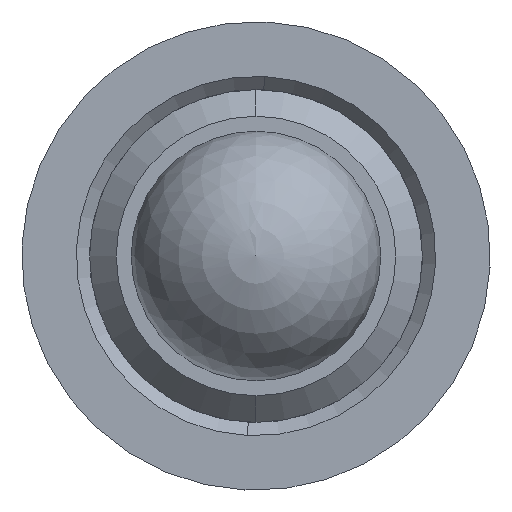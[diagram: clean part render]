
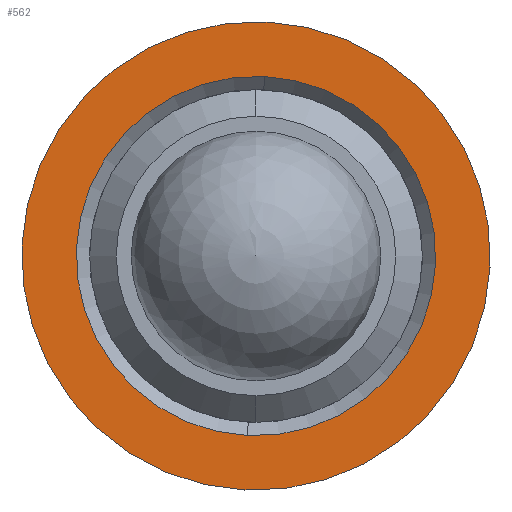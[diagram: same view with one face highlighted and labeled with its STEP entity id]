
A CAD part, left-side view. The second image highlights one B-rep face of the part: STEP entity #562.
In plain terms, the highlighted planar face has unit normal (-1, 0, 0).
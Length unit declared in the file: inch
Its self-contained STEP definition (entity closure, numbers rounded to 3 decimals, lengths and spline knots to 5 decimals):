
#37 = DIRECTION ( 'NONE',  ( 0., -0.047, 0.999 ) ) ;
#45 = VERTEX_POINT ( 'NONE', #416 ) ;
#96 = AXIS2_PLACEMENT_3D ( 'NONE', #1308, #1296, #1261 ) ;
#120 = CARTESIAN_POINT ( 'NONE',  ( 0.08877, 0.45791, 0.37137 ) ) ;
#122 = AXIS2_PLACEMENT_3D ( 'NONE', #168, #160, #37 ) ;
#160 = DIRECTION ( 'NONE',  ( -1., 0., 0. ) ) ;
#168 = CARTESIAN_POINT ( 'NONE',  ( 0.08877, 0.44964, 0.54718 ) ) ;
#180 = VERTEX_POINT ( 'NONE', #395 ) ;
#237 = CIRCLE ( 'NONE', #122, 0.176 ) ;
#395 = CARTESIAN_POINT ( 'NONE',  ( 0.08877, 0.45599, 0.41233 ) ) ;
#416 = CARTESIAN_POINT ( 'NONE',  ( 0.08877, 0.44137, 0.72298 ) ) ;
#438 = FACE_OUTER_BOUND ( 'NONE', #1280, .T. ) ;
#448 = CIRCLE ( 'NONE', #1163, 0.176 ) ;
#562 = ADVANCED_FACE ( 'NONE', ( #1380, #438 ), #916, .F. ) ;
#595 = ORIENTED_EDGE ( 'NONE', *, *, #832, .T. ) ;
#631 = CARTESIAN_POINT ( 'NONE',  ( 0.08877, 0.44964, 0.54718 ) ) ;
#642 = CIRCLE ( 'NONE', #962, 0.135 ) ;
#670 = VERTEX_POINT ( 'NONE', #120 ) ;
#715 = ORIENTED_EDGE ( 'NONE', *, *, #1244, .T. ) ;
#735 = AXIS2_PLACEMENT_3D ( 'NONE', #1363, #1357, #1341 ) ;
#741 = ORIENTED_EDGE ( 'NONE', *, *, #1149, .T. ) ;
#763 = DIRECTION ( 'NONE',  ( 1., 0., 0. ) ) ;
#769 = CARTESIAN_POINT ( 'NONE',  ( 0.08877, 0.44964, 0.54718 ) ) ;
#779 = EDGE_CURVE ( 'NONE', #1382, #180, #642, .T. ) ;
#787 = DIRECTION ( 'NONE',  ( 0., 0.047, -0.999 ) ) ;
#794 = DIRECTION ( 'NONE',  ( -1., 0., 0. ) ) ;
#832 = EDGE_CURVE ( 'NONE', #180, #1382, #1425, .T. ) ;
#916 = PLANE ( 'NONE',  #96 ) ;
#962 = AXIS2_PLACEMENT_3D ( 'NONE', #769, #763, #787 ) ;
#1149 = EDGE_CURVE ( 'NONE', #670, #45, #237, .T. ) ;
#1163 = AXIS2_PLACEMENT_3D ( 'NONE', #631, #794, #1246 ) ;
#1218 = CARTESIAN_POINT ( 'NONE',  ( 0.08877, 0.44329, 0.68203 ) ) ;
#1244 = EDGE_CURVE ( 'NONE', #45, #670, #448, .T. ) ;
#1246 = DIRECTION ( 'NONE',  ( 0., -0.047, 0.999 ) ) ;
#1261 = DIRECTION ( 'NONE',  ( 0., 0.047, -0.999 ) ) ;
#1280 = EDGE_LOOP ( 'NONE', ( #715, #741 ) ) ;
#1296 = DIRECTION ( 'NONE',  ( 1., 0., 0. ) ) ;
#1308 = CARTESIAN_POINT ( 'NONE',  ( 0.08877, 0.44964, 0.54718 ) ) ;
#1341 = DIRECTION ( 'NONE',  ( 0., 0.047, -0.999 ) ) ;
#1357 = DIRECTION ( 'NONE',  ( 1., 0., 0. ) ) ;
#1362 = ORIENTED_EDGE ( 'NONE', *, *, #779, .T. ) ;
#1363 = CARTESIAN_POINT ( 'NONE',  ( 0.08877, 0.44964, 0.54718 ) ) ;
#1380 = FACE_BOUND ( 'NONE', #1411, .T. ) ;
#1382 = VERTEX_POINT ( 'NONE', #1218 ) ;
#1411 = EDGE_LOOP ( 'NONE', ( #1362, #595 ) ) ;
#1425 = CIRCLE ( 'NONE', #735, 0.135 ) ;
